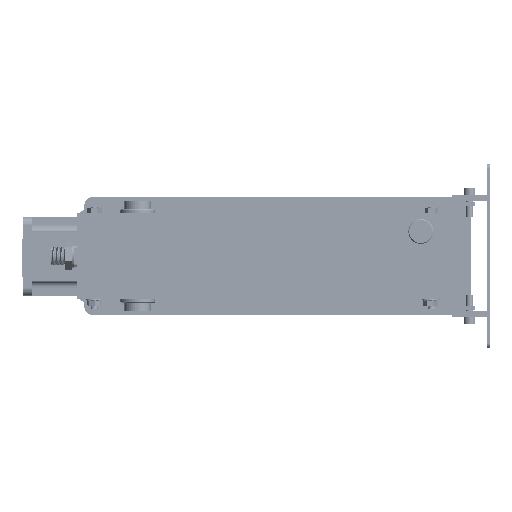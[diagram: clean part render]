
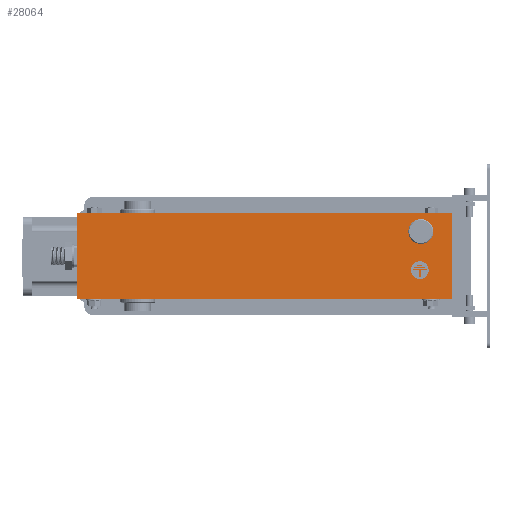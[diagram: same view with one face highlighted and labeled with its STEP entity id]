
A CAD part, left-side view. The second image highlights one B-rep face of the part: STEP entity #28064.
In plain terms, the highlighted planar face has unit normal (-1, 0, 0).
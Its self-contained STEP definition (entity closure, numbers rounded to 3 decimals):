
#1658 = LINE ( 'NONE', #41191, #239995 ) ;
#28064 = ADVANCED_FACE ( 'NONE', ( #56179 ), #115569, .F. ) ;
#40288 = CARTESIAN_POINT ( 'NONE',  ( -471.952, 390.403, -251.041 ) ) ;
#41191 = CARTESIAN_POINT ( 'NONE',  ( -471.952, 470.403, -12.041 ) ) ;
#47307 = LINE ( 'NONE', #64432, #180632 ) ;
#56179 = FACE_OUTER_BOUND ( 'NONE', #94958, .T. ) ;
#64432 = CARTESIAN_POINT ( 'NONE',  ( -471.952, 50.403, 84.959 ) ) ;
#66393 = CARTESIAN_POINT ( 'NONE',  ( -471.952, 470.403, -12.041 ) ) ;
#76710 = VECTOR ( 'NONE', #199858, 1000. ) ;
#80923 = LINE ( 'NONE', #240780, #76710 ) ;
#82411 = DIRECTION ( 'NONE',  ( 0., 0., -1. ) ) ;
#86292 = ORIENTED_EDGE ( 'NONE', *, *, #182572, .T. ) ;
#94650 = VERTEX_POINT ( 'NONE', #238511 ) ;
#94958 = EDGE_LOOP ( 'NONE', ( #154651, #86292, #122272, #99193 ) ) ;
#99193 = ORIENTED_EDGE ( 'NONE', *, *, #204862, .T. ) ;
#100945 = DIRECTION ( 'NONE',  ( 0., 0., -1. ) ) ;
#115569 = PLANE ( 'NONE',  #209348 ) ;
#122272 = ORIENTED_EDGE ( 'NONE', *, *, #141048, .T. ) ;
#134677 = CARTESIAN_POINT ( 'NONE',  ( -471.952, 48.403, -12.041 ) ) ;
#141048 = EDGE_CURVE ( 'NONE', #176440, #94650, #80923, .T. ) ;
#143019 = CARTESIAN_POINT ( 'NONE',  ( -471.952, 470.403, -93.041 ) ) ;
#144914 = DIRECTION ( 'NONE',  ( 0., 1., 0. ) ) ;
#154651 = ORIENTED_EDGE ( 'NONE', *, *, #166843, .T. ) ;
#156701 = CARTESIAN_POINT ( 'NONE',  ( -471.952, 470.403, 84.959 ) ) ;
#164956 = VERTEX_POINT ( 'NONE', #66393 ) ;
#166843 = EDGE_CURVE ( 'NONE', #171588, #164956, #218544, .T. ) ;
#171588 = VERTEX_POINT ( 'NONE', #156701 ) ;
#176440 = VERTEX_POINT ( 'NONE', #134677 ) ;
#180632 = VECTOR ( 'NONE', #144914, 1000. ) ;
#182572 = EDGE_CURVE ( 'NONE', #164956, #176440, #1658, .T. ) ;
#199858 = DIRECTION ( 'NONE',  ( 0., 0., 1. ) ) ;
#204862 = EDGE_CURVE ( 'NONE', #94650, #171588, #47307, .T. ) ;
#209348 = AXIS2_PLACEMENT_3D ( 'NONE', #40288, #223751, #100945 ) ;
#218544 = LINE ( 'NONE', #143019, #219873 ) ;
#219873 = VECTOR ( 'NONE', #82411, 1000. ) ;
#223751 = DIRECTION ( 'NONE',  ( 1., 0., 0. ) ) ;
#238511 = CARTESIAN_POINT ( 'NONE',  ( -471.952, 48.403, 84.959 ) ) ;
#239995 = VECTOR ( 'NONE', #245782, 1000. ) ;
#240780 = CARTESIAN_POINT ( 'NONE',  ( -471.952, 48.403, 84.959 ) ) ;
#245782 = DIRECTION ( 'NONE',  ( 0., -1., 0. ) ) ;
